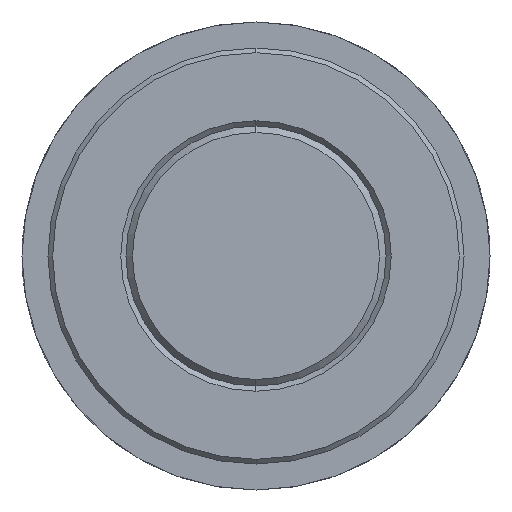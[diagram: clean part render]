
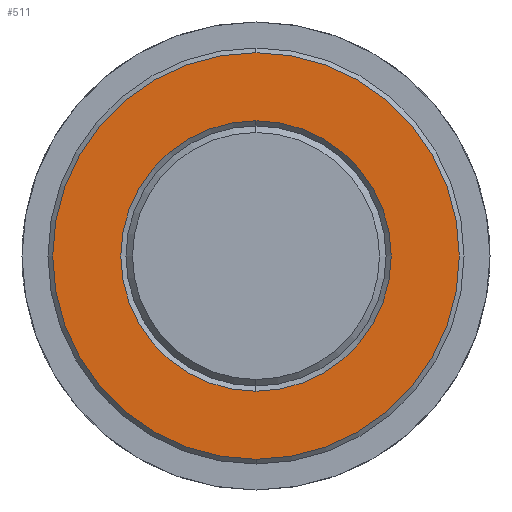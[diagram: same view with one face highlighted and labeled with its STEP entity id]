
A CAD part, left-side view. The second image highlights one B-rep face of the part: STEP entity #511.
In plain terms, the highlighted planar face has unit normal (-1, 0, 0).
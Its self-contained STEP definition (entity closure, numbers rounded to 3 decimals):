
#317=EDGE_CURVE('',#411,#429,#722,.T.);
#393=VERTEX_POINT('',#811);
#405=EDGE_CURVE('',#393,#561,#825,.T.);
#411=VERTEX_POINT('',#831);
#419=EDGE_CURVE('',#561,#393,#839,.T.);
#429=VERTEX_POINT('',#850);
#511=ADVANCED_FACE('',(#940,#941),#942,.T.);
#515=EDGE_CURVE('',#429,#411,#946,.T.);
#561=VERTEX_POINT('',#996);
#722=CIRCLE('',#1192,13.0);
#811=CARTESIAN_POINT('',(25.0,0.,-19.55));
#825=CIRCLE('',#1339,19.55);
#831=CARTESIAN_POINT('',(25.0,0.0,13.0));
#839=CIRCLE('',#1368,19.55);
#850=CARTESIAN_POINT('',(25.0,0.,-13.0));
#940=FACE_BOUND('',#1520,.T.);
#941=FACE_OUTER_BOUND('',#1521,.T.);
#942=PLANE('',#1522);
#946=CIRCLE('',#1528,13.0);
#996=CARTESIAN_POINT('',(25.0,0.0,19.55));
#1192=AXIS2_PLACEMENT_3D('',#1830,#1831,#1832);
#1339=AXIS2_PLACEMENT_3D('',#1986,#1987,#1988);
#1368=AXIS2_PLACEMENT_3D('',#1996,#1997,#1998);
#1520=EDGE_LOOP('',(#2100,#2101));
#1521=EDGE_LOOP('',(#2102,#2103));
#1522=AXIS2_PLACEMENT_3D('',#2104,#2105,#2106);
#1528=AXIS2_PLACEMENT_3D('',#2110,#2111,#2112);
#1830=CARTESIAN_POINT('',(25.0,0.0,0.0));
#1831=DIRECTION('',(1.0,0.0,0.));
#1832=DIRECTION('',(0.,0.0,1.0));
#1986=CARTESIAN_POINT('',(25.0,0.0,0.0));
#1987=DIRECTION('',(1.0,0.0,-0.0));
#1988=DIRECTION('',(0.0,0.0,1.0));
#1996=CARTESIAN_POINT('',(25.0,0.0,0.0));
#1997=DIRECTION('',(1.0,0.0,-0.0));
#1998=DIRECTION('',(0.0,0.0,1.0));
#2100=ORIENTED_EDGE('',*,*,#317,.T.);
#2101=ORIENTED_EDGE('',*,*,#515,.T.);
#2102=ORIENTED_EDGE('',*,*,#419,.F.);
#2103=ORIENTED_EDGE('',*,*,#405,.F.);
#2104=CARTESIAN_POINT('',(25.0,0.0,9.775));
#2105=DIRECTION('',(-1.0,-0.0,0.));
#2106=DIRECTION('',(0.,0.0,-1.0));
#2110=CARTESIAN_POINT('',(25.0,0.0,0.0));
#2111=DIRECTION('',(1.0,0.0,0.));
#2112=DIRECTION('',(0.,0.0,1.0));
